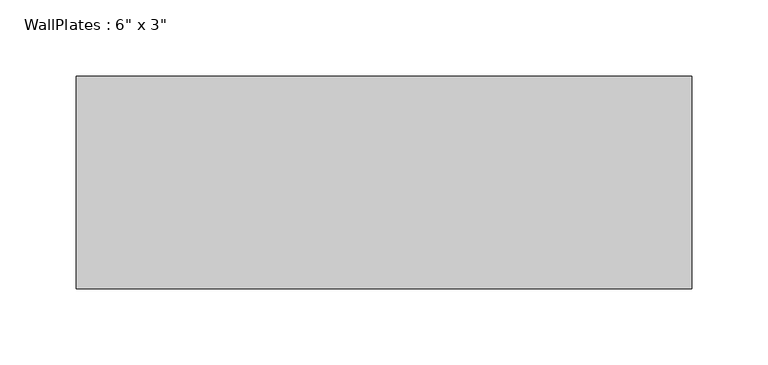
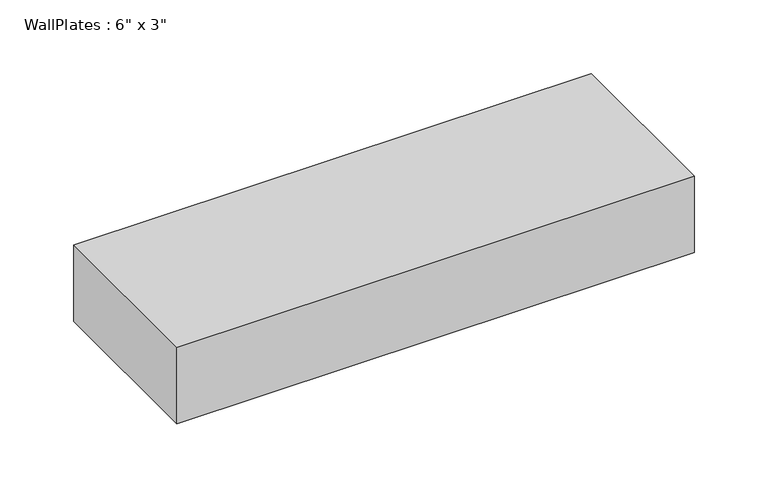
"""IFC4 building model written with IfcOpenShell, lengths in millimetres: beam geometry."""

from ifc_helpers import new_model, si_unit, frame, origin, place, context, project, spatial, polyline, outline, extrude, source, transform, mapped, element, save


def beam_559e72fd(model_context):
    return source(origin(), model_context, "Body", "SweptSolid", [
        extrude(outline(polyline([(-202.4114297, -69.85), (-202.4114297, 69.85), (202.4114297, 69.85), (202.4114297, -69.85), (-202.4114297, -69.85)])), frame((0.0, 0.0, -31.75), z_axis=(0.0, 0.0, 1.0), x_axis=(1.0, 0.0, 0.0)), (0.0, 0.0, 1.0), 63.5),
    ])


if __name__ == "__main__":
    model = new_model("IFC4")
    model_context = context("Model", 3, world=origin())
    ifc_project = project(units=[si_unit("LENGTHUNIT", "METRE", prefix="MILLI")], contexts=[model_context])
    site = spatial("IfcSite", under=ifc_project)
    building = spatial("IfcBuilding", under=site)
    placement = place(None, origin())
    beam_shape = beam_559e72fd(model_context)
    element("IfcBeam", 1, ObjectType="WallPlates : 6\" x 3\"", at=placement, inside=building, context=model_context, shape_type="MappedRepresentation", body=[
        mapped(beam_shape, transform((0.0, 0.0, 0.0), x_axis=(1.0, 0.0, 0.0), y_axis=(0.0, 1.0, 0.0), z_axis=(0.0, 0.0, 1.0))),
    ])
    save(model, "model.ifc")
